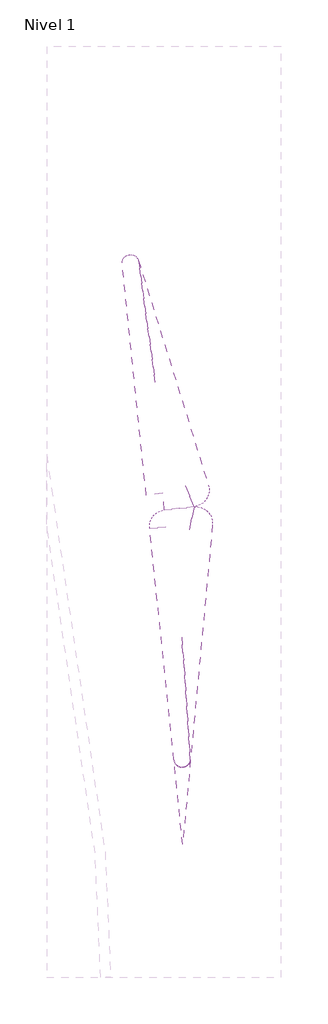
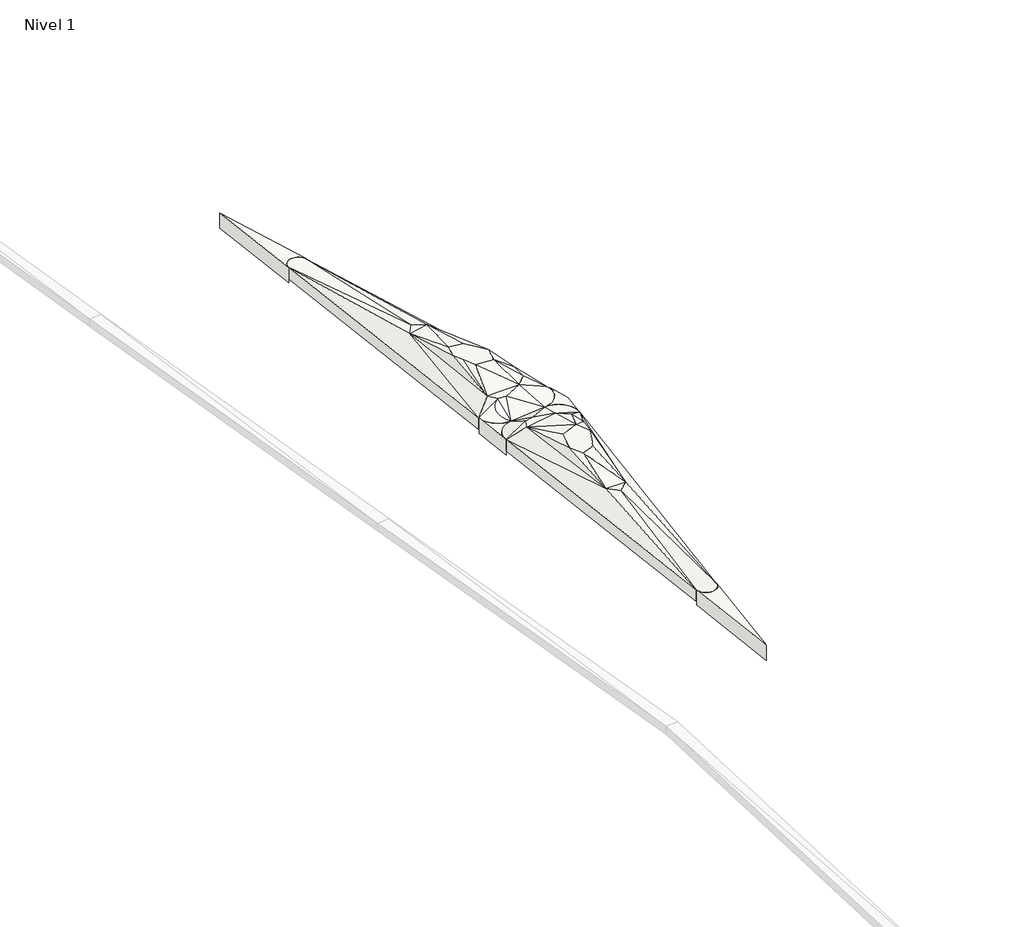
# One storey, part 11 of 45: 3 slabs.
"""IFC4 building model written with IfcOpenShell, lengths in millimetres."""

from ifc_helpers import new_model, si_unit, frame, origin, place, context, project, spatial, polyline, circle_curve, element, save
from ifc_brep_helpers import plane_surface, cylinder_surface, revolved_surface, spline_surface, advanced_brep

model = new_model("IFC4")

# Units and contexts
model_context = context("Model", 3, world=origin())
ifc_project = project(units=[si_unit("LENGTHUNIT", "METRE", prefix="MILLI")], contexts=[model_context])

# Site, building, storey
site = spatial("IfcSite", under=ifc_project)
building = spatial("IfcBuilding", under=site)
storey = spatial("IfcBuildingStorey", under=building, Name="Nivel 1", Elevation=0.0)

# Slabs
placement = place(None, origin())
element("IfcSlab", 1, ObjectType="Lippia", at=placement, inside=storey, context=model_context, shape_type="AdvancedBrep", body=[
    advanced_brep(
    [(-24484.6054708, -495294.89415, 4700.0), (-24484.6054708, -495294.89415, 5000.0), (-23596.0959115, -495202.162353, 5000.0), (-23596.0959115, -495202.162353, 4700.0), (-23046.5259753, -495747.7034036, 5000.0), (-23046.5259753, -495747.7034036, 4700.0), (-23705.2713897, -502778.6839478, 5000.0), (-23705.2713897, -502778.6839478, 4700.0), (-24202.9634842, -502780.0522685, 4700.0), (-24202.9634842, -502780.0522685, 5000.0), (-24926.9759479, -495841.8695529, 5000.0), (-24926.9759479, -495841.8695529, 4700.0), (-23734.2095043, -495884.4264651, 5300.0), (-24220.2622224, -495764.7195847, 5300.0), (-23734.2095043, -495884.4264651, 5000.0), (-24220.2622224, -495764.7195847, 5000.0), (-23794.8534251, -497605.624725, 5500.0), (-23671.0790821, -497343.6523185, 5500.0), (-23547.3047391, -497081.6799121, 5500.0), (-23701.3877223, -496735.46479, 5500.0), (-24126.1686439, -496881.708768, 5500.0), (-24195.5215735, -497162.0875834, 5500.0), (-24252.7985671, -497393.6460148, 5500.0), (-24103.7156642, -497736.7950824, 5500.0), (-23794.8534251, -497605.624725, 5200.0), (-24103.7156642, -497736.7950824, 5200.0), (-24252.7985671, -497393.6460148, 5200.0), (-24195.5215735, -497162.0875834, 5200.0), (-24126.1686439, -496881.708768, 5200.0), (-23701.3877223, -496735.46479, 5200.0), (-23547.3047391, -497081.6799121, 5200.0), (-23671.0790821, -497343.6523185, 5200.0), (-24528.3191814, -496036.7188916, 5300.0), (-24445.5046936, -495820.0647469, 5300.0), (-24528.3191814, -496036.7188916, 5000.0), (-24445.5046936, -495820.0647469, 5000.0), (-23435.0853223, -496090.8785897, 5300.0), (-23435.0853223, -496090.8785897, 5000.0), (-23354.7965534, -496445.3521001, 5300.0), (-23711.1650662, -498889.9282699, 5300.0), (-23711.1650662, -498889.9282699, 5000.0), (-23354.7965534, -496445.3521001, 5000.0), (-24206.9734473, -498881.9011045, 5300.0), (-24206.9734473, -498881.9011045, 5000.0), (-23962.5866261, -499103.8315574, 5300.0), (-23962.5866261, -499103.8315574, 5000.0)],
    [
        (0, 1),
        (1, 2),
        (2, 3),
        (3, 0),
        (2, 4, circle_curve(frame((-23544.1935583, -495699.4646642, 5000.0), z_axis=(0.0, 0.0, -1.0), x_axis=(0.981498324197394, 0.19147072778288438, 0.0)), 499.9999992)),
        (4, 5),
        (5, 3, circle_curve(frame((-23544.1935583, -495699.4646642, 4700.0), z_axis=(0.0, 0.0, 1.0), x_axis=(0.981498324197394, 0.19147072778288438, 0.0)), 499.9999992)),
        (4, 6),
        (6, 7),
        (7, 5),
        (8, 9),
        (9, 10),
        (10, 11),
        (11, 8),
        (10, 1, circle_curve(frame((-24429.4845421, -495791.8465455, 5000.0), z_axis=(0.0, 0.0, -1.0), x_axis=(0.981498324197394, 0.19147072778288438, 0.0)), 500.0000001)),
        (0, 11, circle_curve(frame((-24429.4845421, -495791.8465455, 4700.0), z_axis=(0.0, 0.0, 1.0), x_axis=(0.981498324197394, 0.19147072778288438, 0.0)), 500.0000001)),
        (2, 12),
        (12, 4),
        (1, 13),
        (13, 2),
        (5, 14),
        (14, 3),
        (3, 15),
        (15, 0),
        (16, 17),
        (17, 18),
        (18, 19),
        (19, 20),
        (20, 21),
        (21, 22),
        (22, 23),
        (23, 16),
        (24, 25),
        (25, 26),
        (26, 27),
        (27, 28),
        (28, 29),
        (29, 30),
        (30, 31),
        (31, 24),
        (20, 32),
        (32, 22),
        (10, 32),
        (32, 33),
        (33, 10),
        (19, 32),
        (26, 34),
        (34, 28),
        (11, 35),
        (35, 34),
        (34, 11),
        (34, 29),
        (32, 12),
        (12, 13),
        (13, 33),
        (19, 12),
        (12, 36),
        (36, 4),
        (35, 15),
        (15, 14),
        (14, 34),
        (14, 29),
        (5, 37),
        (37, 14),
        (4, 38),
        (38, 39),
        (39, 4),
        (19, 38),
        (38, 36),
        (36, 19),
        (5, 40),
        (40, 41),
        (41, 5),
        (29, 37),
        (37, 41),
        (41, 29),
        (22, 42),
        (42, 23),
        (23, 39),
        (39, 16),
        (39, 18),
        (25, 43),
        (43, 26),
        (24, 40),
        (40, 25),
        (30, 40),
        (42, 39),
        (40, 43),
        (1, 33),
        (35, 0),
        (10, 42),
        (42, 32),
        (42, 44),
        (44, 39),
        (18, 38),
        (34, 43),
        (43, 11),
        (40, 45),
        (45, 43),
        (41, 30),
        (6, 9, circle_curve(frame((-23954.1856198, -502755.3627188, 5000.0), z_axis=(0.0, 0.0, -1.0), x_axis=(0.981498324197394, 0.19147072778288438, 0.0)), 249.9999994)),
        (8, 7, circle_curve(frame((-23954.1856198, -502755.3627188, 4700.0), z_axis=(0.0, 0.0, 1.0), x_axis=(0.981498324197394, 0.19147072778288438, 0.0)), 249.9999994)),
        (9, 42),
        (9, 44),
        (6, 44),
        (6, 39),
        (43, 8),
        (45, 8),
        (45, 7),
        (40, 7),
    ],
    [
        plane_surface(frame((-24484.6054708, -495294.89415, 4700.0), z_axis=(-0.10380399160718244, 0.994597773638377, 0.0), x_axis=(0.0, 0.0, 1.0))),
        cylinder_surface(frame((-23544.1935583, -495699.4646642, 5000.0), z_axis=(0.0, 0.0, -1.0000000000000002), x_axis=(0.981498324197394, 0.19147072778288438, 0.0)), 499.9999992),
        plane_surface(frame((-23046.5259753, -495747.7034036, 4700.0), z_axis=(0.9956396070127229, -0.09328329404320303, 0.0), x_axis=(0.0, 0.0, 1.0))),
        plane_surface(frame((-24202.9634842, -502780.0522685, 4700.0), z_axis=(-0.99459940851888, -0.103788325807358, 0.0), x_axis=(0.0, 0.0, 1.0))),
        cylinder_surface(frame((-24429.4845421, -495791.8465455, 5000.0), z_axis=(0.0, 0.0, -1.0000000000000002), x_axis=(0.981498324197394, 0.19147072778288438, 0.0)), 500.0000001),
        spline_surface(2, 1, [[(-23046.5259753, -495747.7034036, 5000.0), (-23734.2095043, -495884.4264651, 5300.0)], [(-23023.647711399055, -495511.673804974, 5000.0), (-23734.2095043, -495884.4264651, 5300.0)], [(-23191.94426463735, -495344.6119704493, 5000.0), (-23734.2095043, -495884.4264651, 5300.0)], [(-23360.24081789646, -495177.55013592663, 5000.0), (-23734.2095043, -495884.4264651, 5300.0)], [(-23596.095554, -495202.1657782, 5000.0), (-23734.2095043, -495884.4264651, 5300.0)]], [3, 2, 3], [2, 2], [0.0, 1.0, 2.0], [0.0, 1.0], weights=[[1.0, 1.0], [0.9035324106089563, 0.9035324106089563], [1.0, 1.0], [0.9035324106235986, 0.9035324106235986], [1.0, 1.0]]),
        plane_surface(frame((-24100.3212016, -495420.5920292, 5100.0), z_axis=(-0.053823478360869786, 0.5157095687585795, 0.8550711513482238), x_axis=(-0.9945977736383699, -0.10380399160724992, 0.0))),
        spline_surface(1, 2, [[(-23046.5259753, -495747.7034036, 4700.0), (-23023.647711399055, -495511.673804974, 4700.0), (-23191.94426463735, -495344.6119704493, 4700.0), (-23360.24081789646, -495177.55013592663, 4700.0), (-23596.095554, -495202.1657782, 4700.0)], [(-23734.2095043, -495884.4264651, 5000.0), (-23734.2095043, -495884.4264651, 5000.0), (-23734.2095043, -495884.4264651, 5000.0), (-23734.2095043, -495884.4264651, 5000.0), (-23734.2095043, -495884.4264651, 5000.0)]], [2, 2], [3, 2, 3], [0.0, 1.0], [0.0, 1.0, 2.0], weights=[[1.0, 0.9035324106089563, 1.0, 0.9035324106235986, 1.0], [1.0, 0.9035324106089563, 1.0, 0.9035324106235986, 1.0]]),
        plane_surface(frame((-24100.3212016, -495420.5920292, 4800.0), z_axis=(0.053823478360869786, -0.5157095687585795, -0.8550711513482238), x_axis=(-0.9945977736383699, -0.10380399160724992, 0.0))),
        plane_surface(frame((-23921.0381269, -497239.1532154, 5500.0), z_axis=(0.0, 0.0, 1.0000000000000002), x_axis=(0.4271901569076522, 0.9041618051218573, 0.0))),
        plane_surface(frame((-23921.0381269, -497239.1532154, 5200.0), z_axis=(0.0, 0.0, -1.0000000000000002), x_axis=(0.4271901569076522, 0.9041618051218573, 0.0))),
        plane_surface(frame((-24302.4287975, -496770.6912248, 5433.3333333), z_axis=(-0.31009915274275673, 0.07670438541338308, 0.9476048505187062), x_axis=(0.24011772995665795, 0.9707437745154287, 0.0))),
        plane_surface(frame((-24633.599941, -495899.5510638, 5200.0), z_axis=(-0.5246166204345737, 0.20053092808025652, 0.8273842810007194), x_axis=(0.7442841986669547, -0.3637798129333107, 0.560093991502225))),
        plane_surface(frame((-24118.6251825, -496551.2974832, 5433.3333333), z_axis=(-0.06845009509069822, 0.19882045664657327, 0.9776425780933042), x_axis=(-0.7511163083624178, 0.6346831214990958, -0.1816634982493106))),
        plane_surface(frame((-24302.4287975, -496770.6912248, 5133.3333333), z_axis=(0.31009915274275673, -0.07670438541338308, -0.9476048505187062), x_axis=(0.24011772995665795, 0.9707437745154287, 0.0))),
        plane_surface(frame((-24633.599941, -495899.5510638, 4900.0), z_axis=(0.5246166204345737, -0.20053092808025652, -0.8273842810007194), x_axis=(0.7442841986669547, -0.3637798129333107, 0.560093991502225))),
        plane_surface(frame((-24118.6251825, -496551.2974832, 5133.3333333), z_axis=(0.06845009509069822, -0.19882045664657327, -0.9776425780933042), x_axis=(-0.7511163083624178, 0.6346831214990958, -0.1816634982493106))),
        plane_surface(frame((-24232.0739004, -495876.4824221, 5300.0), z_axis=(0.0, 0.0, 1.0), x_axis=(0.9821028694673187, 0.188345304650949, 0.0))),
        plane_surface(frame((-23987.972136, -496218.8700489, 5366.6666667), z_axis=(-0.04352709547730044, 0.2269665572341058, 0.9729293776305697), x_axis=(-0.037517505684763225, 0.9727940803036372, -0.2286134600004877))),
        plane_surface(frame((-23405.2736006, -495907.6694861, 5200.0), z_axis=(0.2909008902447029, 0.4214802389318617, 0.858912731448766), x_axis=(-0.9017283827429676, -0.1792787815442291, 0.39337646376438))),
        plane_surface(frame((-23850.1892127, -495617.1028009, 5200.0), z_axis=(0.09471556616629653, 0.38457905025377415, 0.9182199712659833), x_axis=(-0.6995664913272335, -0.6305149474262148, 0.33624042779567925))),
        plane_surface(frame((-24232.0739004, -495876.4824221, 5000.0), z_axis=(0.0, 0.0, -1.0), x_axis=(0.9821028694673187, 0.188345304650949, 0.0))),
        plane_surface(frame((-23987.972136, -496218.8700489, 5066.6666667), z_axis=(0.04352709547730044, -0.2269665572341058, -0.9729293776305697), x_axis=(-0.037517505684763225, 0.9727940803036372, -0.2286134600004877))),
        plane_surface(frame((-23405.2736006, -495907.6694861, 4900.0), z_axis=(-0.2909008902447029, -0.4214802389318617, -0.858912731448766), x_axis=(-0.9017283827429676, -0.1792787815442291, 0.39337646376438))),
        plane_surface(frame((-23850.1892127, -495617.1028009, 4900.0), z_axis=(-0.09471556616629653, -0.38457905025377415, -0.9182199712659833), x_axis=(-0.6995664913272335, -0.6305149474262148, 0.33624042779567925))),
        plane_surface(frame((-23370.8291983, -497027.6612579, 5200.0), z_axis=(0.8177607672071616, -0.11921256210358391, 0.5630769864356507), x_axis=(-0.37612312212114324, -0.851206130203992, 0.3660321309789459))),
        plane_surface(frame((-23497.089866, -496423.8984933, 5366.6666667), z_axis=(0.4343259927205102, 0.09837547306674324, 0.8953676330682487), x_axis=(0.7012355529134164, 0.5869662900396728, -0.4046470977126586))),
        plane_surface(frame((-23370.8291983, -497027.6612579, 4900.0), z_axis=(-0.8177607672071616, 0.11921256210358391, -0.5630769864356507), x_axis=(-0.37612312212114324, -0.851206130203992, 0.3660321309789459))),
        plane_surface(frame((-23497.089866, -496423.8984933, 5066.6666667), z_axis=(-0.4343259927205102, -0.09837547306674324, -0.8953676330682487), x_axis=(0.7012355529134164, 0.5869662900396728, -0.4046470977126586))),
        plane_surface(frame((-24187.8292262, -498004.1140673, 5433.3333333), z_axis=(-0.3129370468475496, -0.13595713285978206, 0.9399925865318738), x_axis=(-0.39847355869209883, 0.9171798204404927, 0.0))),
        plane_surface(frame((-23869.9113852, -498077.4493591, 5433.3333333), z_axis=(0.06349956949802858, -0.14952020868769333, 0.98671754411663), x_axis=(-0.9204339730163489, -0.39089807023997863, 0.0))),
        plane_surface(frame((-23684.4410768, -497859.0776357, 5433.3333333), z_axis=(0.2758429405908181, -0.13032776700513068, 0.9523262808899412), x_axis=(0.0642533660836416, -0.9860490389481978, -0.15355389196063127))),
        plane_surface(frame((-24187.8292262, -498004.1140673, 5133.3333333), z_axis=(0.3129370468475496, 0.13595713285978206, -0.9399925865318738), x_axis=(-0.39847355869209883, 0.9171798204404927, 0.0))),
        plane_surface(frame((-23869.9113852, -498077.4493591, 5133.3333333), z_axis=(-0.06349956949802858, 0.14952020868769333, -0.98671754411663), x_axis=(-0.9204339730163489, -0.39089807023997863, 0.0))),
        plane_surface(frame((-23684.4410768, -497859.0776357, 5133.3333333), z_axis=(-0.2758429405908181, 0.13032776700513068, -0.9523262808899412), x_axis=(0.0642533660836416, -0.9860490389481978, -0.15355389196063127))),
        plane_surface(frame((-24007.2847259, -498502.874819, 5366.6666667), z_axis=(-0.0027815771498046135, -0.1718077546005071, 0.9851265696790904), x_axis=(-0.08848005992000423, -0.9812243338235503, -0.17137702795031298))),
        plane_surface(frame((-24007.2847259, -498502.874819, 5066.6666667), z_axis=(0.0027815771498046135, 0.1718077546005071, -0.9851265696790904), x_axis=(-0.08848005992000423, -0.9812243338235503, -0.17137702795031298))),
        plane_surface(frame((-24383.4574623, -495626.5594939, 5200.0), z_axis=(-0.1193570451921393, 0.48575656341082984, 0.8659067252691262), x_axis=(0.06451421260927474, -0.8665036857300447, 0.494984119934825))),
        spline_surface(2, 1, [[(-24484.6054708, -495294.89415, 5000.0), (-24445.5046936, -495820.0647469, 5300.0)], [(-24976.4886948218, -495349.452816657, 5000.0), (-24445.5046936, -495820.0647469, 5300.0)], [(-24926.9759479, -495841.8695529, 5000.0), (-24445.5046936, -495820.0647469, 5300.0)]], [3, 3], [2, 2], [0.0, 1.0], [0.0, 1.0], weights=[[1.0, 1.0], [0.710722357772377, 0.710722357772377], [1.0, 1.0]]),
        plane_surface(frame((-24383.4574623, -495626.5594939, 4900.0), z_axis=(0.1193570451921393, -0.48575656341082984, -0.8659067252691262), x_axis=(0.06451421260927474, -0.8665036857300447, 0.494984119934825))),
        spline_surface(1, 2, [[(-24484.6054708, -495294.89415, 4700.0), (-24976.4886948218, -495349.452816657, 4700.0), (-24926.9759479, -495841.8695529, 4700.0)], [(-24445.5046936, -495820.0647469, 5000.0), (-24445.5046936, -495820.0647469, 5000.0), (-24445.5046936, -495820.0647469, 5000.0)]], [2, 2], [3, 3], [0.0, 1.0], [0.0, 1.0], weights=[[1.0, 0.710722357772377, 1.0], [1.0, 0.710722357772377, 1.0]]),
        plane_surface(frame((-23623.5608496, -496236.9232816, 5366.6666667), z_axis=(0.15989657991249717, 0.23167082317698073, 0.959563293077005), x_axis=(0.3670402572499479, 0.8884226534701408, -0.2756567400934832))),
        plane_surface(frame((-23623.5608496, -496236.9232816, 5066.6666667), z_axis=(-0.15989657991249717, -0.23167082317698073, -0.959563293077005), x_axis=(0.3670402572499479, 0.8884226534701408, -0.2756567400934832))),
        plane_surface(frame((-24554.0895255, -496920.163183, 5200.0), z_axis=(-0.6214856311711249, -0.07019295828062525, 0.7802746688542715), x_axis=(0.2294095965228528, -0.9686249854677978, 0.09558699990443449))),
        plane_surface(frame((-23960.2417132, -498958.5536439, 5300.0), z_axis=(0.0, 0.0, 1.0000000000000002), x_axis=(-0.9998689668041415, 0.016187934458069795, 0.0))),
        plane_surface(frame((-23534.4963383, -496754.1656007, 5433.3333333), z_axis=(0.3819279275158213, 0.16997696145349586, 0.9084266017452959), x_axis=(0.40660027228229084, -0.9136061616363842, 0.0))),
        plane_surface(frame((-23278.802617, -496094.6446978, 5200.0), z_axis=(0.537049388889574, 0.12164247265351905, 0.8347341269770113), x_axis=(-0.648728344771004, -0.5729561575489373, 0.500872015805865))),
        plane_surface(frame((-24554.0895255, -496920.163183, 4900.0), z_axis=(0.6214856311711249, 0.07019295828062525, -0.7802746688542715), x_axis=(0.2294095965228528, -0.9686249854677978, 0.09558699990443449))),
        plane_surface(frame((-23960.2417132, -498958.5536439, 5000.0), z_axis=(0.0, 0.0, -1.0000000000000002), x_axis=(-0.9998689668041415, 0.016187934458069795, 0.0))),
        plane_surface(frame((-23534.4963383, -496754.1656007, 5133.3333333), z_axis=(-0.3819279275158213, -0.16997696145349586, -0.9084266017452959), x_axis=(0.40660027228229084, -0.9136061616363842, 0.0))),
        plane_surface(frame((-23278.802617, -496094.6446978, 4900.0), z_axis=(-0.537049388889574, -0.12164247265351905, -0.8347341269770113), x_axis=(-0.648728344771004, -0.5729561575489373, 0.500872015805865))),
        plane_surface(frame((-24329.3637319, -497437.4220037, 5366.6666667), z_axis=(-0.8492683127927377, -0.09591960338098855, 0.5191750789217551), x_axis=(-0.19694303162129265, 0.969935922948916, -0.1429606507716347))),
        plane_surface(frame((-24329.3637319, -497437.4220037, 5066.6666667), z_axis=(0.8492683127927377, 0.09591960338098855, -0.5191750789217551), x_axis=(-0.19694303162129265, 0.969935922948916, -0.1429606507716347))),
        plane_surface(frame((-23537.7554529, -497472.320094, 5366.6666667), z_axis=(0.8873644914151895, -0.12935934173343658, 0.4425499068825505), x_axis=(-0.08970588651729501, -0.9899316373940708, -0.10949067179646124))),
        plane_surface(frame((-23537.7554529, -497472.320094, 5066.6666667), z_axis=(-0.8873644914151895, 0.12935934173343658, -0.4425499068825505), x_axis=(-0.08970588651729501, -0.9899316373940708, -0.10949067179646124))),
        cylinder_surface(frame((-23954.1856198, -502755.3627188, 5000.0), z_axis=(0.0, 0.0, -1.0000000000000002), x_axis=(0.981498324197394, 0.19147072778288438, 0.0)), 249.9999994),
        plane_surface(frame((-24445.6376265, -499167.9409753, 5100.0), z_axis=(-0.5961926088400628, -0.062213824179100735, 0.800427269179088), x_axis=(0.103788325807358, -0.99459940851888, 0.0))),
        plane_surface(frame((-24124.1745192, -500255.2616435, 5200.0), z_axis=(-0.06957754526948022, -0.0766178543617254, 0.994629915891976), x_axis=(0.0010256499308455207, -0.9970511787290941, -0.07673262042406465))),
        spline_surface(2, 1, [[(-24202.9634842, -502780.0522685, 5000.0), (-23962.5866261, -499103.8315574, 5300.0)], [(-24180.54104504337, -503005.9861796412, 5000.0), (-23962.5866261, -499103.8315574, 5300.0)], [(-23953.498079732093, -503005.36177273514, 5000.0), (-23962.5866261, -499103.8315574, 5300.0)], [(-23726.455114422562, -503004.7373658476, 5000.0), (-23962.5866261, -499103.8315574, 5300.0)], [(-23705.2757187, -502778.6835422, 5000.0), (-23962.5866261, -499103.8315574, 5300.0)]], [3, 2, 3], [2, 2], [0.0, 1.0, 2.0], [0.0, 1.0], weights=[[1.0, 1.0], [0.7402773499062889, 0.7402773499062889], [1.0, 1.0], [0.7402773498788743, 0.7402773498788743], [1.0, 1.0]]),
        plane_surface(frame((-23793.007694, -500257.4812584, 5200.0), z_axis=(0.06521615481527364, -0.07665495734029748, 0.994922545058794), x_axis=(-0.7616477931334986, -0.6479912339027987, 0.0))),
        plane_surface(frame((-23487.6541437, -499138.7718738, 5100.0), z_axis=(0.6284649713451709, -0.05888203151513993, 0.7756060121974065), x_axis=(-0.20604311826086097, -0.9741133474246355, 0.09300225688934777))),
        plane_surface(frame((-24445.6376265, -499167.9409753, 4800.0), z_axis=(0.5961926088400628, 0.062213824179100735, -0.800427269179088), x_axis=(0.103788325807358, -0.99459940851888, 0.0))),
        plane_surface(frame((-24124.1745192, -500255.2616435, 4900.0), z_axis=(0.06957754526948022, 0.0766178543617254, -0.994629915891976), x_axis=(0.0010256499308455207, -0.9970511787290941, -0.07673262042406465))),
        spline_surface(1, 2, [[(-24202.9634842, -502780.0522685, 4700.0), (-24180.54104504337, -503005.9861796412, 4700.0), (-23953.498079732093, -503005.36177273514, 4700.0), (-23726.455114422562, -503004.7373658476, 4700.0), (-23705.2757187, -502778.6835422, 4700.0)], [(-23962.5866261, -499103.8315574, 5000.0), (-23962.5866261, -499103.8315574, 5000.0), (-23962.5866261, -499103.8315574, 5000.0), (-23962.5866261, -499103.8315574, 5000.0), (-23962.5866261, -499103.8315574, 5000.0)]], [2, 2], [3, 2, 3], [0.0, 1.0], [0.0, 1.0, 2.0], weights=[[1.0, 0.7402773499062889, 1.0, 0.7402773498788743, 1.0], [1.0, 0.7402773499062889, 1.0, 0.7402773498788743, 1.0]]),
        plane_surface(frame((-23793.007694, -500257.4812584, 4900.0), z_axis=(-0.06521615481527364, 0.07665495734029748, -0.994922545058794), x_axis=(-0.7616477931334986, -0.6479912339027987, 0.0))),
        plane_surface(frame((-23487.6541437, -499138.7718738, 4800.0), z_axis=(-0.6284649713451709, 0.05888203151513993, -0.7756060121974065), x_axis=(-0.20604311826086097, -0.9741133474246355, 0.09300225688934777))),
    ],
    [
        (0, [[1, 2, 3, 4]]),
        (1, [[-3, 5, 6, 7]]),
        (2, [[-6, 8, 9, 10]]),
        (3, [[11, 12, 13, 14]]),
        (4, [[-13, 15, -1, 16]]),
        (5, [[-5, 17, 18]]),
        (6, [[-2, 19, 20]]),
        (7, [[21, 22, -7]]),
        (8, [[23, 24, -4]]),
        (9, [[25, 26, 27, 28, 29, 30, 31, 32]]),
        (10, [[33, 34, 35, 36, 37, 38, 39, 40]]),
        (11, [[-29, 41, 42, -30]]),
        (12, [[43, 44, 45]]),
        (13, [[46, -41, -28]]),
        (14, [[-35, 47, 48, -36]]),
        (15, [[49, 50, 51]]),
        (16, [[-37, -48, 52]]),
        (17, [[53, 54, 55, -44]]),
        (18, [[56, -53, -46]]),
        (19, [[-18, 57, 58]]),
        (20, [[-20, -54, -17]]),
        (21, [[-50, 59, 60, 61]]),
        (22, [[-52, -61, 62]]),
        (23, [[63, 64, -21]]),
        (24, [[-22, -60, -23]]),
        (25, [[65, 66, 67]]),
        (26, [[68, 69, 70]]),
        (27, [[71, 72, 73]]),
        (28, [[74, 75, 76]]),
        (29, [[-31, 77, 78]]),
        (30, [[-32, 79, 80]]),
        (31, [[-80, 81, -26, -25]]),
        (32, [[82, 83, -34]]),
        (33, [[84, 85, -33]]),
        (34, [[-40, -39, 86, -84]]),
        (35, [[-78, 87, -79]]),
        (36, [[-85, 88, -82]]),
        (37, [[89, -55, -19]]),
        (38, [[-45, -89, -15]]),
        (39, [[-24, -59, 90]]),
        (40, [[-16, -90, -49]]),
        (41, [[-70, -57, -56]]),
        (42, [[-62, -64, -74]]),
        (43, [[91, 92, -43]]),
        (44, [[-87, 93, 94]]),
        (45, [[-27, 95, -68]]),
        (46, [[-58, -69, -65]]),
        (47, [[-51, 96, 97]]),
        (48, [[98, 99, -88]]),
        (49, [[-76, 100, -38]]),
        (50, [[-73, -75, -63]]),
        (51, [[-42, -92, -77]]),
        (52, [[-83, -96, -47]]),
        (53, [[-81, -66, -95]]),
        (54, [[-100, -72, -86]]),
        (55, [[-9, 101, -11, 102]]),
        (56, [[-12, 103, -91]]),
        (57, [[-103, 104, -93]]),
        (58, [[-104, -101, 105]]),
        (59, [[-94, -105, 106]]),
        (60, [[-67, -106, -8]]),
        (61, [[-97, 107, -14]]),
        (62, [[-99, 108, -107]]),
        (63, [[109, -102, -108]]),
        (64, [[110, -109, -98]]),
        (65, [[-10, -110, -71]]),
    ],
),
])
element("IfcSlab", 2, ObjectType="Lippia", at=placement, inside=storey, context=model_context, shape_type="AdvancedBrep", body=[
    advanced_brep(
    [(-23596.0373602, -495202.1562421, 4700.0), (-23596.0373602, -495202.1562421, 5000.0), (-24484.6092318, -495294.2890386, 5000.0), (-24484.6092318, -495294.2890386, 4700.0), (-23170.5215306, -494555.1798659, 4700.0), (-23170.5215306, -494555.1798659, 5000.0), (-25262.9281359, -487823.6833754, 4700.0), (-25262.9281359, -487823.6833754, 5000.0), (-25030.0900529, -494850.0769225, 4700.0), (-25030.0900529, -494850.0769225, 5000.0), (-25751.6033739, -487892.5325624, 5000.0), (-25751.6033739, -487892.5325624, 4700.0), (-23935.145929, -493352.8395543, 5500.0), (-24285.2360852, -492891.0653655, 5500.0), (-24614.2979087, -492839.8862946, 5500.0), (-24709.9505288, -493162.5590446, 5500.0), (-24586.0334825, -493407.5739201, 5500.0), (-24454.7936784, -493690.1408343, 5500.0), (-24014.6694118, -493723.356075, 5500.0), (-23866.240369, -494574.0165494, 5300.0), (-24321.3868743, -494793.3180545, 5300.0), (-23935.145929, -493352.8395543, 5200.0), (-24014.6694118, -493723.356075, 5200.0), (-24454.7936784, -493690.1408343, 5200.0), (-24586.0334825, -493407.5739201, 5200.0), (-24709.9505288, -493162.5590446, 5200.0), (-24614.2979087, -492839.8862946, 5200.0), (-24285.2360852, -492891.0653655, 5200.0), (-23866.240369, -494574.0165494, 5000.0), (-24321.3868743, -494793.3180545, 5000.0), (-24467.2637766, -491630.276928, 5300.0), (-24950.7769411, -491740.2995049, 5300.0), (-24467.2637766, -491630.276928, 5000.0), (-24950.7769411, -491740.2995049, 5000.0), (-24678.7807145, -494591.823935, 5300.0), (-24532.9546392, -494796.6318055, 5300.0), (-24678.7807145, -494591.823935, 5000.0), (-24532.9546392, -494796.6318055, 5000.0), (-23619.6144918, -494310.711827, 5300.0), (-23619.6144918, -494310.711827, 5000.0), (-23614.3767294, -493949.9816425, 5300.0), (-23614.3767294, -493949.9816425, 5000.0), (-24757.3699662, -491472.7783057, 5300.0), (-24757.3699662, -491472.7783057, 5000.0)],
    [
        (0, 1),
        (1, 2),
        (2, 3),
        (3, 0),
        (4, 5),
        (5, 1, circle_curve(frame((-23647.6044504, -494704.8190545, 5000.0), z_axis=(0.0, 0.0, -1.0), x_axis=(0.014647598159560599, -0.9998927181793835, 0.0)), 499.9999992)),
        (0, 4, circle_curve(frame((-23647.6044504, -494704.8190545, 4700.0), z_axis=(0.0, 0.0, 1.0), x_axis=(0.014647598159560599, -0.9998927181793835, 0.0)), 499.9999992)),
        (6, 7),
        (7, 5),
        (4, 6),
        (8, 9),
        (9, 10),
        (10, 11),
        (11, 8),
        (2, 9, circle_curve(frame((-24532.9546392, -494796.6318055, 5000.0), z_axis=(0.0, 0.0, -1.0), x_axis=(0.014647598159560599, -0.9998927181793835, 0.0)), 500.0000001)),
        (8, 3, circle_curve(frame((-24532.9546392, -494796.6318055, 4700.0), z_axis=(0.0, 0.0, 1.0), x_axis=(0.014647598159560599, -0.9998927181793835, 0.0)), 500.0000001)),
        (12, 13),
        (13, 14),
        (14, 15),
        (15, 16),
        (16, 17),
        (17, 18),
        (18, 12),
        (5, 19),
        (19, 1),
        (1, 20),
        (20, 2),
        (21, 22),
        (22, 23),
        (23, 24),
        (24, 25),
        (25, 26),
        (26, 27),
        (27, 21),
        (0, 28),
        (28, 4),
        (3, 29),
        (29, 0),
        (13, 30),
        (30, 14),
        (14, 31),
        (31, 15),
        (26, 32),
        (32, 27),
        (25, 33),
        (33, 26),
        (30, 31),
        (12, 30),
        (33, 32),
        (32, 21),
        (34, 9),
        (9, 35),
        (35, 34),
        (16, 34),
        (34, 17),
        (36, 37),
        (37, 8),
        (8, 36),
        (23, 36),
        (36, 24),
        (2, 35),
        (35, 20),
        (20, 19),
        (19, 34),
        (37, 3),
        (36, 28),
        (28, 29),
        (29, 37),
        (19, 17),
        (19, 18),
        (5, 38),
        (38, 19),
        (23, 28),
        (22, 28),
        (28, 39),
        (39, 4),
        (40, 18),
        (18, 38),
        (38, 40),
        (40, 5),
        (5, 30),
        (30, 40),
        (41, 39),
        (39, 22),
        (22, 41),
        (41, 32),
        (32, 4),
        (4, 41),
        (34, 15),
        (31, 34),
        (31, 9),
        (36, 33),
        (25, 36),
        (8, 33),
        (40, 12),
        (21, 41),
        (42, 31),
        (30, 42),
        (43, 32),
        (33, 43),
        (10, 7, circle_curve(frame((-25501.6607991, -487897.8906192, 5000.0), z_axis=(0.0, 0.0, -1.0), x_axis=(0.014647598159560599, -0.9998927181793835, 0.0)), 249.999999)),
        (6, 11, circle_curve(frame((-25501.6607991, -487897.8906192, 4700.0), z_axis=(0.0, 0.0, 1.0), x_axis=(0.014647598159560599, -0.9998927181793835, 0.0)), 249.999999)),
        (31, 10),
        (42, 10),
        (42, 7),
        (30, 7),
        (11, 33),
        (11, 43),
        (6, 43),
        (6, 32),
    ],
    [
        plane_surface(frame((-23596.0373602, -495202.1562421, 4700.0), z_axis=(0.10313347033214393, -0.9946675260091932, 0.0), x_axis=(0.0, 0.0, 1.0))),
        cylinder_surface(frame((-23647.6044504, -494704.8190545, 5000.0), z_axis=(0.0, 0.0, -1.0), x_axis=(0.014647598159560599, -0.9998927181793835, 0.0)), 499.9999992),
        plane_surface(frame((-25262.9281359, -487823.6833754, 4700.0), z_axis=(0.9549306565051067, 0.2968289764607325, 0.0), x_axis=(0.0, 0.0, 1.0))),
        plane_surface(frame((-25030.0900529, -494850.0769225, 4700.0), z_axis=(-0.9946659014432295, -0.10314913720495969, 0.0), x_axis=(0.0, 0.0, 1.0))),
        cylinder_surface(frame((-24532.9546392, -494796.6318055, 5000.0), z_axis=(0.0, 0.0, -1.0), x_axis=(0.014647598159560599, -0.9998927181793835, 0.0)), 500.0000001),
        plane_surface(frame((-24371.4467178, -493295.3458698, 5500.0), z_axis=(0.0, 0.0, 1.0), x_axis=(-0.6041440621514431, 0.7968751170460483, 0.0))),
        spline_surface(2, 1, [[(-23596.0377154, -495202.1528167, 5000.0), (-23866.240369, -494574.0165494, 5300.0)], [(-23360.166438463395, -495177.6961790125, 5000.0), (-23866.240369, -494574.0165494, 5300.0)], [(-23229.859176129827, -494979.57146123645, 5000.0), (-23866.240369, -494574.0165494, 5300.0)], [(-23099.551913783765, -494781.4467435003, 5000.0), (-23866.240369, -494574.0165494, 5300.0)], [(-23170.5215306, -494555.1798659, 5000.0), (-23866.240369, -494574.0165494, 5300.0)]], [3, 2, 3], [2, 2], [0.0, 1.0, 2.0], [0.0, 1.0], weights=[[1.0, 1.0], [0.9035324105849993, 0.9035324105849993], [1.0, 1.0], [0.9035324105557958, 0.9035324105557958], [1.0, 1.0]]),
        plane_surface(frame((-24134.0112738, -495096.5866366, 5100.0), z_axis=(0.0545428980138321, -0.5260175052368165, 0.8487229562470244), x_axis=(0.9946671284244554, 0.10313730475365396, 0.0))),
        plane_surface(frame((-24371.4467178, -493295.3458698, 5200.0), z_axis=(0.0, 0.0, -1.0), x_axis=(-0.6041440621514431, 0.7968751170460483, 0.0))),
        spline_surface(1, 2, [[(-23596.0377154, -495202.1528167, 4700.0), (-23360.166438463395, -495177.6961790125, 4700.0), (-23229.859176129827, -494979.57146123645, 4700.0), (-23099.551913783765, -494781.4467435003, 4700.0), (-23170.5215306, -494555.1798659, 4700.0)], [(-23866.240369, -494574.0165494, 5000.0), (-23866.240369, -494574.0165494, 5000.0), (-23866.240369, -494574.0165494, 5000.0), (-23866.240369, -494574.0165494, 5000.0), (-23866.240369, -494574.0165494, 5000.0)]], [2, 2], [3, 2, 3], [0.0, 1.0], [0.0, 1.0, 2.0], weights=[[1.0, 0.9035324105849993, 1.0, 0.9035324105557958, 1.0], [1.0, 0.9035324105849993, 1.0, 0.9035324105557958, 1.0]]),
        plane_surface(frame((-24134.0112738, -495096.5866366, 4800.0), z_axis=(-0.0545428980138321, 0.5260175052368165, -0.8487229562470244), x_axis=(0.9946671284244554, 0.10313730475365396, 0.0))),
        plane_surface(frame((-24455.5992569, -492453.7428627, 5433.3333333), z_axis=(0.024905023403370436, 0.1601297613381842, 0.986781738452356), x_axis=(0.988120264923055, -0.15368260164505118, 0.0))),
        plane_surface(frame((-24758.3417928, -492580.914948, 5433.3333333), z_axis=(-0.28797396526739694, 0.0853665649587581, 0.953825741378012), x_axis=(0.28421364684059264, 0.9587609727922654, 0.0))),
        plane_surface(frame((-24455.5992569, -492453.7428627, 5133.3333333), z_axis=(-0.024905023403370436, -0.1601297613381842, -0.986781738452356), x_axis=(0.988120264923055, -0.15368260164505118, 0.0))),
        plane_surface(frame((-24758.3417928, -492580.914948, 5133.3333333), z_axis=(0.28797396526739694, -0.0853665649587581, -0.953825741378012), x_axis=(0.28421364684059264, 0.9587609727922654, 0.0))),
        plane_surface(frame((-24677.4462088, -492070.1542425, 5366.6666667), z_axis=(-0.038118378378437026, 0.16751777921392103, 0.9851318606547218), x_axis=(0.2882837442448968, -0.9420884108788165, 0.17135317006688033))),
        plane_surface(frame((-24229.2152636, -492624.7272826, 5433.3333333), z_axis=(0.24584770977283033, 0.18638734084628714, 0.9512195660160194), x_axis=(0.1411652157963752, -0.977760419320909, 0.15510301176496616))),
        plane_surface(frame((-24677.4462088, -492070.1542425, 5066.6666667), z_axis=(0.038118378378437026, -0.16751777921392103, -0.9851318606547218), x_axis=(0.2882837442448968, -0.9420884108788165, 0.17135317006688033))),
        plane_surface(frame((-24229.2152636, -492624.7272826, 5133.3333333), z_axis=(-0.24584770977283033, -0.18638734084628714, -0.9512195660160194), x_axis=(0.1411652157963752, -0.977760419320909, 0.15510301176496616))),
        plane_surface(frame((-24747.2751355, -494746.1775543, 5200.0), z_axis=(-0.4617821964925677, -0.32879539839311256, 0.8238026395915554), x_axis=(-0.6637784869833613, -0.4879539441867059, -0.5668324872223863))),
        plane_surface(frame((-24573.2026251, -493896.5128965, 5433.3333333), z_axis=(-0.29431074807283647, -0.1366942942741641, 0.9458836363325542), x_axis=(-0.421238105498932, 0.9069500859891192, 0.0))),
        plane_surface(frame((-24747.2751355, -494746.1775543, 4900.0), z_axis=(0.4617821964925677, 0.32879539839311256, -0.8238026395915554), x_axis=(-0.6637784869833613, -0.4879539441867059, -0.5668324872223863))),
        plane_surface(frame((-24573.2026251, -493896.5128965, 5133.3333333), z_axis=(0.29431074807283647, 0.1366942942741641, -0.9458836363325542), x_axis=(-0.421238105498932, 0.9069500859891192, 0.0))),
        revolved_surface(polyline([(-24532.9546392, -494796.6318055, 5300.0), (-25030.0900529, -494850.0769225, 5000.0)]), (-24532.9546392, -494796.6318055, 5300.0), (0.0, 0.0, -1.0)),
        plane_surface(frame((-24349.8406492, -494688.9475861, 5300.0), z_axis=(0.0, 0.0, 1.0), x_axis=(0.9998773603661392, 0.015660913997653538, 0.0))),
        plane_surface(frame((-24446.3169151, -494961.4129662, 5200.0), z_axis=(0.008077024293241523, -0.5156808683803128, 0.8567426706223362), x_axis=(0.082911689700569, -0.8534751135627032, -0.5144957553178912))),
        revolved_surface(polyline([(-24484.6092318, -495294.2890386, 4700.0), (-24532.9546392, -494796.6318055, 5000.0)]), (-24532.9546392, -494796.6318055, 5000.0), (0.0, 0.0, -1.0)),
        plane_surface(frame((-24349.8406492, -494688.9475861, 5000.0), z_axis=(0.0, 0.0, -1.0), x_axis=(0.9998773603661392, 0.015660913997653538, 0.0))),
        plane_surface(frame((-24446.3169151, -494961.4129662, 4900.0), z_axis=(-0.008077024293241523, 0.5156808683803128, -0.8567426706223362), x_axis=(0.082911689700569, -0.8534751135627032, -0.5144957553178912))),
        plane_surface(frame((-24333.2715873, -494285.3271063, 5366.6666667), z_axis=(0.0047704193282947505, -0.21767137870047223, 0.9760104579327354), x_axis=(-0.5446693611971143, 0.8179718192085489, 0.18508751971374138))),
        plane_surface(frame((-24111.9011531, -493995.8378196, 5433.3333333), z_axis=(-0.017487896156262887, -0.23172637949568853, 0.9726238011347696), x_axis=(-0.16745692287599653, 0.9597110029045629, 0.22563902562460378))),
        plane_surface(frame((-23552.1254638, -494479.9694141, 5200.0), z_axis=(0.37834139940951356, -0.35437564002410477, 0.8551465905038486), x_axis=(0.9179822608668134, 0.02485449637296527, -0.39584191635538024))),
        plane_surface(frame((-23927.8883196, -494856.4958069, 5200.0), z_axis=(0.17452763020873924, -0.3622211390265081, 0.9156068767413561), x_axis=(0.8195762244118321, -0.4619447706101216, -0.33897174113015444))),
        plane_surface(frame((-24333.2715873, -494285.3271063, 5066.6666667), z_axis=(-0.0047704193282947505, 0.21767137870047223, -0.9760104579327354), x_axis=(-0.5446693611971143, 0.8179718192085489, 0.18508751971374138))),
        plane_surface(frame((-24111.9011531, -493995.8378196, 5133.3333333), z_axis=(0.017487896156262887, 0.23172637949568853, -0.9726238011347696), x_axis=(-0.16745692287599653, 0.9597110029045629, 0.22563902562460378))),
        plane_surface(frame((-23552.1254638, -494479.9694141, 4900.0), z_axis=(-0.37834139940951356, 0.35437564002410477, -0.8551465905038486), x_axis=(0.9179822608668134, 0.02485449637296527, -0.39584191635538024))),
        plane_surface(frame((-23927.8883196, -494856.4958069, 4900.0), z_axis=(-0.17452763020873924, 0.3622211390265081, -0.9156068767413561), x_axis=(0.8195762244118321, -0.4619447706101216, -0.33897174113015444))),
        plane_surface(frame((-23749.5535443, -493994.6831815, 5366.6666667), z_axis=(0.44401939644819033, -0.006447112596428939, 0.895993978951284), x_axis=(-0.7980462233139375, 0.4518136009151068, 0.3987313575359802))),
        plane_surface(frame((-23750.7206789, -493378.4794788, 5200.0), z_axis=(0.7716227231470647, 0.2837029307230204, 0.5693074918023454), x_axis=(0.5491540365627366, -0.7487735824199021, -0.3711710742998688))),
        plane_surface(frame((-23749.5535443, -493994.6831815, 5066.6666667), z_axis=(-0.44401939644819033, 0.006447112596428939, -0.895993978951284), x_axis=(-0.7980462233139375, 0.4518136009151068, 0.3987313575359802))),
        plane_surface(frame((-23750.7206789, -493378.4794788, 4900.0), z_axis=(-0.7716227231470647, -0.2837029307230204, -0.5693074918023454), x_axis=(0.5491540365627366, -0.7487735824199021, -0.3711710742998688))),
        plane_surface(frame((-23833.5080909, -494202.6948172, 5366.6666667), z_axis=(0.20322584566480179, -0.1903526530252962, 0.9604504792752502), x_axis=(-0.537077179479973, 0.798510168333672, 0.2719000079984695))),
        plane_surface(frame((-23833.5080909, -494202.6948172, 5066.6666667), z_axis=(-0.20322584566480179, 0.1903526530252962, -0.9604504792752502), x_axis=(-0.537077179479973, 0.798510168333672, 0.2719000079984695))),
        plane_surface(frame((-24779.8360614, -493164.8941615, 5366.6666667), z_axis=(-0.8819642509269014, -0.0841272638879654, 0.4637474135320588), x_axis=(-0.021592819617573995, 0.9901200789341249, 0.13854955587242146))),
        plane_surface(frame((-24658.2549086, -493720.6522999, 5433.3333333), z_axis=(-0.27506903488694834, -0.13911703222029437, 0.9513061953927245), x_axis=(0.07699450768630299, 0.983110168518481, 0.16603084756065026))),
        plane_surface(frame((-24886.5492362, -493727.4001208, 5200.0), z_axis=(-0.6226370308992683, -0.05939101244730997, 0.7802536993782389), x_axis=(-0.025378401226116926, -0.9950584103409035, -0.09599321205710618))),
        plane_surface(frame((-24779.8360614, -493164.8941615, 5066.6666667), z_axis=(0.8819642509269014, 0.0841272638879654, -0.4637474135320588), x_axis=(-0.021592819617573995, 0.9901200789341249, 0.13854955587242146))),
        plane_surface(frame((-24658.2549086, -493720.6522999, 5133.3333333), z_axis=(0.27506903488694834, 0.13911703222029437, -0.9513061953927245), x_axis=(0.07699450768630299, 0.983110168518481, 0.16603084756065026))),
        plane_surface(frame((-24886.5492362, -493727.4001208, 4900.0), z_axis=(0.6226370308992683, 0.05939101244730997, -0.7802536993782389), x_axis=(-0.025378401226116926, -0.9950584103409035, -0.09599321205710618))),
        plane_surface(frame((-23854.7306901, -493675.392424, 5433.3333333), z_axis=(0.4054006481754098, -0.08701061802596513, 0.9099887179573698), x_axis=(-0.2098497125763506, -0.9777336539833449, 0.0))),
        plane_surface(frame((-24005.5954783, -492977.6993749, 5366.6666667), z_axis=(0.8477904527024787, 0.3117075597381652, 0.42905680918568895), x_axis=(0.29334950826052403, -0.9496259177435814, 0.11025734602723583))),
        plane_surface(frame((-23854.7306901, -493675.392424, 5133.3333333), z_axis=(-0.4054006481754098, 0.08701061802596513, -0.9099887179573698), x_axis=(-0.2098497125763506, -0.9777336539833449, 0.0))),
        plane_surface(frame((-24005.5954783, -492977.6993749, 5066.6666667), z_axis=(-0.8477904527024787, -0.3117075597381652, -0.42905680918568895), x_axis=(0.29334950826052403, -0.9496259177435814, 0.11025734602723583))),
        plane_surface(frame((-24725.1368946, -491614.4515795, 5300.0), z_axis=(0.0, 0.0, 1.0000000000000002), x_axis=(-0.5858831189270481, -0.8103955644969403, 0.0))),
        plane_surface(frame((-23468.1709173, -494271.9577785, 5200.0), z_axis=(0.5524343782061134, -0.008021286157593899, 0.8335177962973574), x_axis=(0.7575390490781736, -0.41237361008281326, -0.5060460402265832))),
        plane_surface(frame((-24725.1368946, -491614.4515795, 5000.0), z_axis=(0.0, 0.0, -1.0000000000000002), x_axis=(-0.5858831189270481, -0.8103955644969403, 0.0))),
        plane_surface(frame((-23468.1709173, -494271.9577785, 4900.0), z_axis=(-0.5524343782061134, 0.008021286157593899, -0.8335177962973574), x_axis=(0.7575390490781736, -0.41237361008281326, -0.5060460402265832))),
        cylinder_surface(frame((-25501.6607991, -487897.8906192, 5000.0), z_axis=(0.0, 0.0, -1.0), x_axis=(0.014647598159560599, -0.9998927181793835, 0.0)), 249.999999),
        plane_surface(frame((-25244.1567893, -491494.3029966, 5100.0), z_axis=(-0.5971234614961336, -0.061923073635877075, 0.7997556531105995), x_axis=(0.10314913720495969, -0.9946659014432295, 0.0))),
        plane_surface(frame((-25153.2500937, -490368.536791, 5200.0), z_axis=(-0.08329444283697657, 0.06021850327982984, 0.9947038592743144), x_axis=(0.20317016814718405, -0.976180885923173, 0.07611018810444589))),
        spline_surface(2, 1, [[(-25262.9281359, -487823.6833754, 5000.0), (-24757.3699662, -491472.7783057, 5300.0)], [(-25326.03025444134, -487620.67709135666, 5000.0), (-24757.3699662, -491472.7783057, 5300.0)], [(-25536.538702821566, -487650.33551151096, 5000.0), (-24757.3699662, -491472.7783057, 5300.0)], [(-25747.047151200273, -487679.99393159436, 5000.0), (-24757.3699662, -491472.7783057, 5300.0)], [(-25751.6033739, -487892.5325624, 5000.0), (-24757.3699662, -491472.7783057, 5300.0)]], [3, 2, 3], [2, 2], [0.0, 1.0, 2.0], [0.0, 1.0], weights=[[1.0, 1.0], [0.761807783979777, 0.761807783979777], [1.0, 1.0], [0.7618077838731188, 0.7618077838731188], [1.0, 1.0]]),
        plane_surface(frame((-24829.1872929, -490308.9128697, 5200.0), z_axis=(0.04801805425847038, 0.08844734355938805, 0.9949227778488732), x_axis=(0.8788376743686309, -0.477120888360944, 0.0))),
        plane_surface(frame((-24300.2378144, -491336.3800564, 5100.0), z_axis=(0.6013162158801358, 0.18691208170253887, 0.776841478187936), x_axis=(0.4035292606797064, -0.9101916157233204, -0.09335608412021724))),
        plane_surface(frame((-25244.1567893, -491494.3029966, 4800.0), z_axis=(0.5971234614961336, 0.061923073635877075, -0.7997556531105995), x_axis=(0.10314913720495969, -0.9946659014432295, 0.0))),
        plane_surface(frame((-25153.2500937, -490368.536791, 4900.0), z_axis=(0.08329444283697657, -0.06021850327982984, -0.9947038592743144), x_axis=(0.20317016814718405, -0.976180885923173, 0.07611018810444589))),
        spline_surface(1, 2, [[(-25262.9281359, -487823.6833754, 4700.0), (-25326.03025444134, -487620.67709135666, 4700.0), (-25536.538702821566, -487650.33551151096, 4700.0), (-25747.047151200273, -487679.99393159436, 4700.0), (-25751.6033739, -487892.5325624, 4700.0)], [(-24757.3699662, -491472.7783057, 5000.0), (-24757.3699662, -491472.7783057, 5000.0), (-24757.3699662, -491472.7783057, 5000.0), (-24757.3699662, -491472.7783057, 5000.0), (-24757.3699662, -491472.7783057, 5000.0)]], [2, 2], [3, 2, 3], [0.0, 1.0], [0.0, 1.0, 2.0], weights=[[1.0, 0.761807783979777, 1.0, 0.7618077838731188, 1.0], [1.0, 0.761807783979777, 1.0, 0.7618077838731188, 1.0]]),
        plane_surface(frame((-24829.1872929, -490308.9128697, 4900.0), z_axis=(-0.04801805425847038, -0.08844734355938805, -0.9949227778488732), x_axis=(0.8788376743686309, -0.477120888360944, 0.0))),
        plane_surface(frame((-24300.2378144, -491336.3800564, 4800.0), z_axis=(-0.6013162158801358, -0.18691208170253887, -0.776841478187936), x_axis=(0.4035292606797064, -0.9101916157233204, -0.09335608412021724))),
    ],
    [
        (0, [[1, 2, 3, 4]]),
        (1, [[5, 6, -1, 7]]),
        (2, [[8, 9, -5, 10]]),
        (3, [[11, 12, 13, 14]]),
        (4, [[-3, 15, -11, 16]]),
        (5, [[17, 18, 19, 20, 21, 22, 23]]),
        (6, [[-6, 24, 25]]),
        (7, [[-2, 26, 27]]),
        (8, [[28, 29, 30, 31, 32, 33, 34]]),
        (9, [[35, 36, -7]]),
        (10, [[37, 38, -4]]),
        (11, [[-18, 39, 40]]),
        (12, [[-19, 41, 42]]),
        (13, [[43, 44, -33]]),
        (14, [[45, 46, -32]]),
        (15, [[-41, -40, 47]]),
        (16, [[-39, -17, 48]]),
        (17, [[49, -43, -46]]),
        (18, [[50, -34, -44]]),
        (19, [[51, 52, 53]]),
        (20, [[-21, 54, 55]]),
        (21, [[56, 57, 58]]),
        (22, [[59, 60, -30]]),
        (23, [[-52, -15, 61]]),
        (24, [[62, 63, 64, -53]]),
        (25, [[-61, -27, -62]]),
        (26, [[65, -16, -57]]),
        (27, [[-56, 66, 67, 68]]),
        (28, [[-68, -37, -65]]),
        (29, [[69, -55, -64]]),
        (30, [[70, -22, -69]]),
        (31, [[-24, 71, 72]]),
        (32, [[-26, -25, -63]]),
        (33, [[-66, -59, 73]]),
        (34, [[-73, -29, 74]]),
        (35, [[75, 76, -36]]),
        (36, [[-67, -35, -38]]),
        (37, [[77, 78, 79]]),
        (38, [[80, 81, 82]]),
        (39, [[83, 84, 85]]),
        (40, [[86, 87, 88]]),
        (41, [[-78, -70, -72]]),
        (42, [[-75, -74, -84]]),
        (43, [[89, -42, 90]]),
        (44, [[-54, -20, -89]]),
        (45, [[91, -51, -90]]),
        (46, [[92, -45, 93]]),
        (47, [[-93, -31, -60]]),
        (48, [[-92, -58, 94]]),
        (49, [[-23, -77, 95]]),
        (50, [[-48, -95, -82]]),
        (51, [[96, -85, -28]]),
        (52, [[-86, -96, -50]]),
        (53, [[97, -47, 98]]),
        (54, [[-71, -80, -79]]),
        (55, [[99, -49, 100]]),
        (56, [[-83, -88, -76]]),
        (57, [[-13, 101, -8, 102]]),
        (58, [[-12, -91, 103]]),
        (59, [[-103, -97, 104]]),
        (60, [[-104, 105, -101]]),
        (61, [[-98, 106, -105]]),
        (62, [[-81, -9, -106]]),
        (63, [[107, -94, -14]]),
        (64, [[108, -100, -107]]),
        (65, [[-102, 109, -108]]),
        (66, [[-109, 110, -99]]),
        (67, [[-110, -10, -87]]),
    ],
),
])
element("IfcSlab", 3, ObjectType="Bordillo", at=placement, inside=storey, context=model_context, shape_type="AdvancedBrep", body=[
    advanced_brep(
    [(-23938.9724366, -505317.5053167, 4600.0), (-23938.9724366, -505317.5053167, 5000.0), (-24202.7860077, -502781.779509, 5000.0), (-24202.7860077, -502781.779509, 4600.0), (-23706.341009, -502788.1201394, 5000.0), (-23706.341009, -502788.1201394, 4600.0)],
    [
        (0, 1),
        (1, 2),
        (2, 3),
        (3, 0),
        (2, 4, circle_curve(frame((-23954.1856198, -502755.3627188, 5000.0), z_axis=(0.0, 0.0, 1.0), x_axis=(0.9814780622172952, 0.1915745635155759, 0.0)), 249.9999994)),
        (4, 5),
        (5, 3, circle_curve(frame((-23954.1856198, -502755.3627188, 4600.0), z_axis=(0.0, 0.0, -1.0), x_axis=(0.9814780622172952, 0.1915745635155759, 0.0)), 249.9999994)),
        (4, 1),
        (0, 5),
    ],
    [
        plane_surface(frame((-23938.9724366, -505317.5053167, 4600.0), z_axis=(-0.9946315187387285, -0.10348015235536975, 0.0), x_axis=(0.0, 0.0, 1.0))),
        revolved_surface(polyline([(-23708.81610483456, -502707.4690780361, 5000.0), (-23708.81610483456, -502707.4690780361, 4600.0)]), (-23954.1856198, -502755.3627188, 5000.0), (0.0, 0.0, 1.0000000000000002)),
        plane_surface(frame((-23706.341009, -502788.1201394, 4600.0), z_axis=(0.9957972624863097, -0.09158499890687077, 0.0), x_axis=(0.0, 0.0, 1.0))),
        plane_surface(frame((-23949.3664844, -503629.1349884, 5000.0), z_axis=(0.0, 0.0, 1.0000000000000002), x_axis=(0.9814780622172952, 0.1915745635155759, 0.0))),
        plane_surface(frame((-23949.3664844, -503629.1349884, 4600.0), z_axis=(0.0, 0.0, -1.0000000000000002), x_axis=(0.9814780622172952, 0.1915745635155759, 0.0))),
    ],
    [
        (0, [[1, 2, 3, 4]]),
        (1, [[-3, 5, 6, 7]]),
        (2, [[-6, 8, -1, 9]]),
        (3, [[-5, -2, -8]]),
        (4, [[-9, -4, -7]]),
    ],
),
    advanced_brep(
    [(-23043.7099499, -495750.8925963, 4600.0), (-23043.7099499, -495750.8925963, 5000.0), (-23561.4218719, -495204.6992737, 5000.0), (-23561.4218719, -495204.6992737, 4600.0), (-23147.4592508, -494627.2272204, 5000.0), (-23147.4592508, -494627.2272204, 4600.0), (-22986.8819513, -495143.6316063, 5000.0), (-22986.8819513, -495143.6316063, 4600.0)],
    [
        (0, 1),
        (1, 2, circle_curve(frame((-23541.5346843, -495704.3036161, 5000.0), z_axis=(0.0, 0.0, 1.0), x_axis=(0.9814780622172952, 0.1915745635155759, 0.0)), 499.9999992)),
        (2, 3),
        (3, 0, circle_curve(frame((-23541.5346843, -495704.3036161, 4600.0), z_axis=(0.0, 0.0, -1.0), x_axis=(0.9814780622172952, 0.1915745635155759, 0.0)), 499.9999992)),
        (2, 4, circle_curve(frame((-23643.1556805, -494708.9969241, 5000.0), z_axis=(0.0, 0.0, 1.0), x_axis=(0.9814780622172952, 0.1915745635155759, 0.0)), 502.3954964)),
        (4, 5),
        (5, 3, circle_curve(frame((-23643.1556805, -494708.9969241, 4600.0), z_axis=(0.0, 0.0, -1.0), x_axis=(0.9814780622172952, 0.1915745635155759, 0.0)), 502.3954964)),
        (4, 6),
        (6, 7),
        (7, 5),
        (6, 1),
        (0, 7),
    ],
    [
        revolved_surface(polyline([(-23050.795653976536, -495608.51633449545, 5000.000000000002), (-23050.795653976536, -495608.51633449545, 4600.000000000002)]), (-23541.5346843, -495704.3036161, 0.0), (0.0, 0.0, 1.0000000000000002)),
        revolved_surface(polyline([(-23150.065522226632, -494612.75072616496, 5000.000000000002), (-23150.065522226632, -494612.75072616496, 4600.000000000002)]), (-23643.1556805, -494708.9969241, 0.0), (0.0, 0.0, 1.0000000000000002)),
        plane_surface(frame((-23147.4592508, -494627.2272204, 4600.0), z_axis=(0.9548996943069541, 0.2969285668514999, 0.0), x_axis=(0.0, 0.0, 1.0))),
        plane_surface(frame((-22986.8819513, -495143.6316063, 4600.0), z_axis=(0.9956494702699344, -0.09317796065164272, 0.0), x_axis=(0.0, 0.0, 1.0))),
        plane_surface(frame((-23184.8688967, -495181.6126142, 5000.0), z_axis=(0.0, 0.0, 1.0), x_axis=(-0.2969285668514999, 0.9548996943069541, 0.0))),
        plane_surface(frame((-23184.8688967, -495181.6126142, 4600.0), z_axis=(0.0, 0.0, -1.0), x_axis=(-0.2969285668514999, 0.9548996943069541, 0.0))),
    ],
    [
        (0, [[1, 2, 3, 4]]),
        (1, [[-3, 5, 6, 7]]),
        (2, [[-6, 8, 9, 10]]),
        (3, [[-9, 11, -1, 12]]),
        (4, [[-8, -5, -2, -11]]),
        (5, [[-12, -4, -7, -10]]),
    ],
),
    advanced_brep(
    [(-25030.6056637, -494853.9578291, 4600.0), (-25030.6056637, -494853.9578291, 5000.0), (-24508.9898394, -495302.628075, 5000.0), (-24508.9898394, -495302.628075, 4600.0), (-24926.7581503, -495849.3654645, 5000.0), (-24926.7581503, -495849.3654645, 4600.0)],
    [
        (0, 1),
        (1, 2, circle_curve(frame((-24532.1007691, -494801.9507864, 5000.0), z_axis=(0.0, 0.0, 1.0), x_axis=(0.9814780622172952, 0.1915745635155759, 0.0)), 501.2103973)),
        (2, 3),
        (3, 0, circle_curve(frame((-24532.1007691, -494801.9507864, 4600.0), z_axis=(0.0, 0.0, -1.0), x_axis=(0.9814780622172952, 0.1915745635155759, 0.0)), 501.2103973)),
        (2, 4, circle_curve(frame((-24428.1851758, -495797.3513193, 5000.0), z_axis=(0.0, 0.0, 1.0), x_axis=(0.9814780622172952, 0.1915745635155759, 0.0)), 501.2788467)),
        (4, 5),
        (5, 3, circle_curve(frame((-24428.1851758, -495797.3513193, 4600.0), z_axis=(0.0, 0.0, -1.0), x_axis=(0.9814780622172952, 0.1915745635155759, 0.0)), 501.2788467)),
        (4, 1),
        (0, 5),
    ],
    [
        revolved_surface(polyline([(-24040.173759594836, -494705.9316233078, 5000.000000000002), (-24040.173759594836, -494705.9316233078, 4600.000000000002)]), (-24532.1007691, -494801.9507864, 0.0), (0.0, 0.0, 1.0000000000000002)),
        revolved_surface(polyline([(-23936.190984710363, -495701.3190430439, 5000.000000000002), (-23936.190984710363, -495701.3190430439, 4600.000000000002)]), (-24428.1851758, -495797.3513193, 0.0), (0.0, 0.0, 1.0000000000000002)),
        plane_surface(frame((-24926.7531624, -495849.3649442, 4600.0), z_axis=(-0.9946020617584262, -0.10376289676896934, 0.0), x_axis=(0.0, 0.0, 1.0))),
        plane_surface(frame((-24822.1160324, -495335.3169296, 5000.0), z_axis=(0.0, 0.0, 1.0000000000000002), x_axis=(0.9814780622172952, 0.1915745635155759, 0.0))),
        plane_surface(frame((-24822.1160324, -495335.3169296, 4600.0), z_axis=(0.0, 0.0, -1.0000000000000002), x_axis=(0.9814780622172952, 0.1915745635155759, 0.0))),
    ],
    [
        (0, [[1, 2, 3, 4]]),
        (1, [[-3, 5, 6, 7]]),
        (2, [[-6, 8, -1, 9]]),
        (3, [[-5, -2, -8]]),
        (4, [[-9, -4, -7]]),
    ],
),
    advanced_brep(
    [(-25265.1977924, -487816.7410908, 4600.0), (-25265.1977924, -487816.7410908, 5000.0), (-25751.4675283, -487907.7190234, 5000.0), (-25751.4675283, -487907.7190234, 4600.0), (-26016.997189, -485399.0113939, 5000.0), (-26016.997189, -485399.0113939, 4600.0)],
    [
        (0, 1),
        (1, 2, circle_curve(frame((-25501.6607991, -487897.8906192, 5000.0), z_axis=(0.0, 0.0, 1.0), x_axis=(0.9814780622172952, 0.1915745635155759, 0.0)), 249.999999)),
        (2, 3),
        (3, 0, circle_curve(frame((-25501.6607991, -487897.8906192, 4600.0), z_axis=(0.0, 0.0, -1.0), x_axis=(0.9814780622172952, 0.1915745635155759, 0.0)), 249.999999)),
        (2, 4),
        (4, 5),
        (5, 3),
        (4, 1),
        (0, 5),
    ],
    [
        revolved_surface(polyline([(-25256.291284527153, -487849.9969785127, 5000.000000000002), (-25256.291284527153, -487849.9969785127, 4600.000000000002)]), (-25501.6607991, -487897.8906192, 0.0), (0.0, 0.0, 1.0000000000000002)),
        plane_surface(frame((-25751.4675283, -487907.7190234, 4600.0), z_axis=(-0.9944452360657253, -0.10525527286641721, 0.0), x_axis=(0.0, 0.0, 1.0))),
        plane_surface(frame((-26016.997189, -485399.0113939, 4600.0), z_axis=(0.9548996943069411, 0.296928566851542, 0.0), x_axis=(0.0, 0.0, 1.0))),
        plane_surface(frame((-25677.8875032, -487041.1571693, 5000.0), z_axis=(0.0, 0.0, 1.0), x_axis=(0.10525527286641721, -0.9944452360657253, 0.0))),
        plane_surface(frame((-25677.8875032, -487041.1571693, 4600.0), z_axis=(0.0, 0.0, -1.0), x_axis=(0.10525527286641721, -0.9944452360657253, 0.0))),
    ],
    [
        (0, [[1, 2, 3, 4]]),
        (1, [[-3, 5, 6, 7]]),
        (2, [[-6, 8, -1, 9]]),
        (3, [[-5, -2, -8]]),
        (4, [[-9, -4, -7]]),
    ],
),
])

save(model, "model.ifc")
